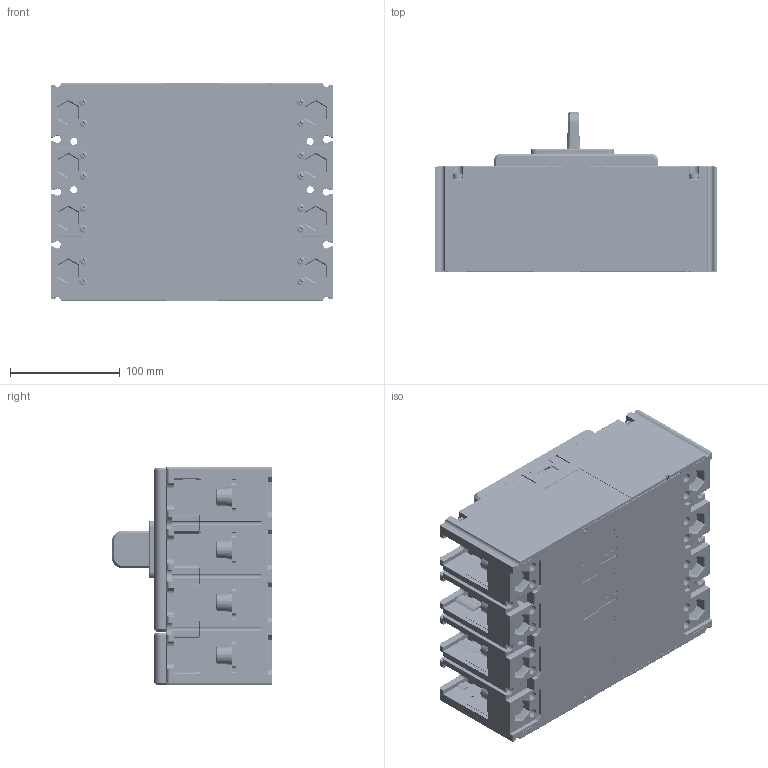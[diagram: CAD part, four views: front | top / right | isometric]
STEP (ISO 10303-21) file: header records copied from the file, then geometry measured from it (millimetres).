
FILE_DESCRIPTION((''),'2;1');
FILE_NAME('2258012100_ASM','2017-12-20T',('yan.shen'),(''),'PRO/ENGINEER BY PARAMETRIC TECHNOLOGY CORPORATION, 2015440','PRO/ENGINEER BY PARAMETRIC TECHNOLOGY CORPORATION, 2015440','');
FILE_SCHEMA(('CONFIG_CONTROL_DESIGN'));
Products named in the file (50): JZ-5DLX_024_272; GB_T809-M5X16; 5024027200_ASM; 8420028400; 5551070700_ASM; 5551071200_ASM; 85510337P01; 8550073700; 5551070800_ASM; 8595008700; 8955003200; 7130130208_GB_T109_3X8_AF0; 5551071000_ASM; 7010100505J_GB_T823_M4X10; 7090300401K_GB_T93_4; GB_T97_4-4; 5850007500_ASM; 85510337P02; 8585064700; 8505024500; 5510012400_ASM; 6760010100_ASM; 8742105000; 8742104000; 8742103700; 8253057400; 8865077500_AF0; 8865077600_AF0; 5253021200_ASM; GZ_5DLX_315_429; GB_T809-M3X8; 5315042900_ASM; 8282201200_AF2; 8253201300; 5315043900_ASM; GB_T823-M5X35; 7090300501K_GB_T93_5; GB_T97_4_5; 5850007400_ASM; 8315058100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
Assembly tree (116 placements, depth 5):
  2258012100_ASM
    6760010100_ASM
      5024027200_ASM
        JZ-5DLX_024_272
        GB_T809-M5X16  x10
      5551071200_ASM
        5551070700_ASM  x3
          8420028400
      5551071000_ASM  x3
        5551070800_ASM
          85510337P01
          8550073700
        8595008700
        8955003200
        7130130208_GB_T109_3X8_AF0
      5850007500_ASM  x22
        7010100505J_GB_T823_M4X10
        7090300401K_GB_T93_4
        GB_T97_4-4
      5510012400_ASM
        85510337P02
        8585064700
        8505024500  x2
    8742105000  x4
    8742104000
    8742103700  x4
    5253021200_ASM
      8253057400
      8865077500_AF0
      8865077600_AF0
    5315043900_ASM
      5315042900_ASM
        GZ_5DLX_315_429
        GB_T809-M3X8  x6
      8282201200_AF2
      8253201300
    5850007400_ASM  x10
      GB_T823-M5X35
      7090300501K_GB_T93_5
      GB_T97_4_5
    8315058100
    8315058200
    5850007700_ASM  x6
      7010100305R01_GB_T823_M3X10
      7090300201_GB_T93_3
      GB_T97_4_3
    5850002600_ASM  x8
      GB_T70_1-M10X25
      GB_T9074_26-10
      GB_T97_4_10
Bounding box: 257 x 145.9 x 198 mm (x, y, z)
Volume: 1831245.8 mm3; surface area: 848951.7 mm2
Topology: 196 solids, 283 shells, 7977 faces, 19848 edges, 12581 vertices
Faces by surface type: plane 4436, cylinder 2490, cone 318, torus 256, extrusion 186, sphere 184, bspline 107
Entity records: 185513 total; most frequent: CARTESIAN_POINT 50736, ORIENTED_EDGE 28072, DIRECTION 27291, EDGE_CURVE 14074, VECTOR 10069, LINE 9883, VERTEX_POINT 8986, AXIS2_PLACEMENT_3D 8611
